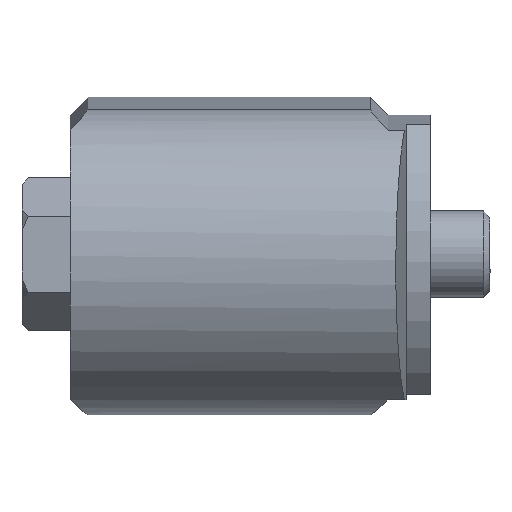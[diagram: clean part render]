
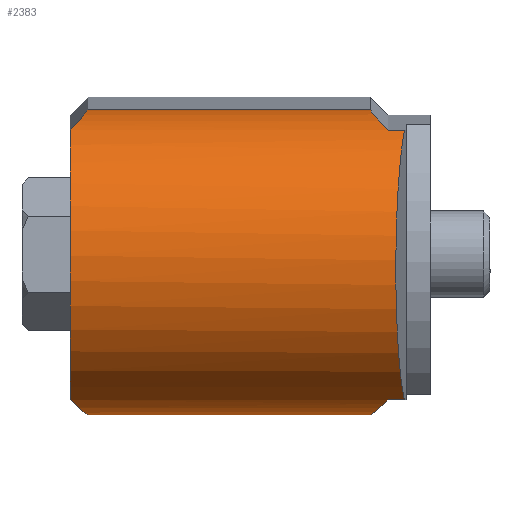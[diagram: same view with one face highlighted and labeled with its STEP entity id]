
A CAD part, left-side view. The second image highlights one B-rep face of the part: STEP entity #2383.
In plain terms, the highlighted cylindrical face has radius 12.75 mm (diameter 25.5 mm), a partial arc.
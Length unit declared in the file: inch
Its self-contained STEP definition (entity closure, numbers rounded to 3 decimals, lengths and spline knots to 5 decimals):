
#110=ELLIPSE('',#2556,0.70989,0.50197);
#111=ELLIPSE('',#2559,0.70989,0.50197);
#112=ELLIPSE('',#2562,0.70989,0.50197);
#113=ELLIPSE('',#2564,0.70989,0.50197);
#114=ELLIPSE('',#2568,0.50473,0.50197);
#158=LINE('',#3568,#286);
#171=LINE('',#3598,#299);
#180=LINE('',#3623,#308);
#181=LINE('',#3625,#309);
#286=VECTOR('',#2884,0.3937);
#299=VECTOR('',#2903,0.3937);
#308=VECTOR('',#2930,0.3937);
#309=VECTOR('',#2933,0.3937);
#411=CYLINDRICAL_SURFACE('',#2569,0.50197);
#455=FACE_OUTER_BOUND('',#592,.T.);
#592=EDGE_LOOP('',(#1557,#1558,#1559,#1560,#1561,#1562,#1563,#1564,#1565,
#1566));
#753=CIRCLE('',#2570,0.50197);
#903=VERTEX_POINT('',#3558);
#904=VERTEX_POINT('',#3559);
#907=VERTEX_POINT('',#3567);
#912=VERTEX_POINT('',#3579);
#913=VERTEX_POINT('',#3580);
#920=VERTEX_POINT('',#3595);
#921=VERTEX_POINT('',#3597);
#923=VERTEX_POINT('',#3603);
#925=VERTEX_POINT('',#3609);
#926=VERTEX_POINT('',#3610);
#1153=EDGE_CURVE('',#903,#904,#110,.T.);
#1157=EDGE_CURVE('',#904,#907,#158,.T.);
#1163=EDGE_CURVE('',#912,#913,#111,.T.);
#1171=EDGE_CURVE('',#921,#920,#171,.T.);
#1174=EDGE_CURVE('',#920,#923,#112,.T.);
#1177=EDGE_CURVE('',#925,#926,#113,.T.);
#1183=EDGE_CURVE('',#907,#921,#114,.T.);
#1184=EDGE_CURVE('',#923,#925,#180,.T.);
#1185=EDGE_CURVE('',#912,#926,#753,.T.);
#1186=EDGE_CURVE('',#903,#913,#181,.T.);
#1557=ORIENTED_EDGE('',*,*,#1153,.T.);
#1558=ORIENTED_EDGE('',*,*,#1157,.T.);
#1559=ORIENTED_EDGE('',*,*,#1183,.T.);
#1560=ORIENTED_EDGE('',*,*,#1171,.T.);
#1561=ORIENTED_EDGE('',*,*,#1174,.T.);
#1562=ORIENTED_EDGE('',*,*,#1184,.T.);
#1563=ORIENTED_EDGE('',*,*,#1177,.T.);
#1564=ORIENTED_EDGE('',*,*,#1185,.F.);
#1565=ORIENTED_EDGE('',*,*,#1163,.T.);
#1566=ORIENTED_EDGE('',*,*,#1186,.F.);
#2383=ADVANCED_FACE('',(#455),#411,.T.);
#2556=AXIS2_PLACEMENT_3D('',#3560,#2877,#2878);
#2559=AXIS2_PLACEMENT_3D('',#3581,#2892,#2893);
#2562=AXIS2_PLACEMENT_3D('',#3604,#2908,#2909);
#2564=AXIS2_PLACEMENT_3D('',#3611,#2914,#2915);
#2568=AXIS2_PLACEMENT_3D('',#3621,#2926,#2927);
#2569=AXIS2_PLACEMENT_3D('',#3622,#2928,#2929);
#2570=AXIS2_PLACEMENT_3D('',#3624,#2931,#2932);
#2877=DIRECTION('center_axis',(-0.03,0.707,0.706));
#2878=DIRECTION('ref_axis',(-0.03,-0.707,0.706));
#2884=DIRECTION('',(0.,-1.,0.));
#2892=DIRECTION('center_axis',(-0.03,-0.707,0.706));
#2893=DIRECTION('ref_axis',(-0.03,0.707,0.706));
#2903=DIRECTION('',(0.,1.,0.));
#2908=DIRECTION('center_axis',(0.03,0.707,-0.706));
#2909=DIRECTION('ref_axis',(-0.03,0.707,0.706));
#2914=DIRECTION('center_axis',(0.03,-0.707,-0.706));
#2915=DIRECTION('ref_axis',(-0.03,-0.707,0.706));
#2926=DIRECTION('center_axis',(0.104,0.995,0.004));
#2927=DIRECTION('ref_axis',(-0.994,0.105,-0.042));
#2928=DIRECTION('center_axis',(0.,-1.,0.));
#2929=DIRECTION('ref_axis',(-0.042,0.,0.999));
#2930=DIRECTION('',(0.,1.,0.));
#2931=DIRECTION('center_axis',(0.,1.,0.));
#2932=DIRECTION('ref_axis',(-0.042,0.,0.999));
#2933=DIRECTION('',(0.,1.,0.));
#3558=CARTESIAN_POINT('',(-1.88071,-0.02817,-1.64257));
#3559=CARTESIAN_POINT('',(-2.11919,-0.08722,-1.59343));
#3560=CARTESIAN_POINT('Origin',(-1.90168,-0.53014,-1.14104));
#3567=CARTESIAN_POINT('',(-2.11919,-0.14069,-1.59343));
#3568=CARTESIAN_POINT('',(-2.11919,0.95608,-1.59343));
#3579=CARTESIAN_POINT('',(-2.11919,0.95608,-1.59343));
#3580=CARTESIAN_POINT('',(-1.88071,0.89703,-1.64257));
#3581=CARTESIAN_POINT('Origin',(-1.90168,1.399,-1.14104));
#3595=CARTESIAN_POINT('',(-2.15619,-0.08722,-0.70838));
#3597=CARTESIAN_POINT('',(-2.15619,-0.14069,-0.70838));
#3598=CARTESIAN_POINT('',(-2.15619,0.95608,-0.70838));
#3603=CARTESIAN_POINT('',(-1.92264,-0.02817,-0.63951));
#3604=CARTESIAN_POINT('Origin',(-1.90168,-0.53014,-1.14104));
#3609=CARTESIAN_POINT('',(-1.92264,0.89703,-0.63951));
#3610=CARTESIAN_POINT('',(-2.15619,0.95608,-0.70838));
#3611=CARTESIAN_POINT('Origin',(-1.90168,1.399,-1.14104));
#3621=CARTESIAN_POINT('Origin',(-1.90168,-0.16552,-1.14104));
#3622=CARTESIAN_POINT('Origin',(-1.90168,0.95608,-1.14104));
#3623=CARTESIAN_POINT('',(-1.92264,0.95608,-0.63951));
#3624=CARTESIAN_POINT('Origin',(-1.90168,0.95608,-1.14104));
#3625=CARTESIAN_POINT('',(-1.88071,0.95608,-1.64257));
